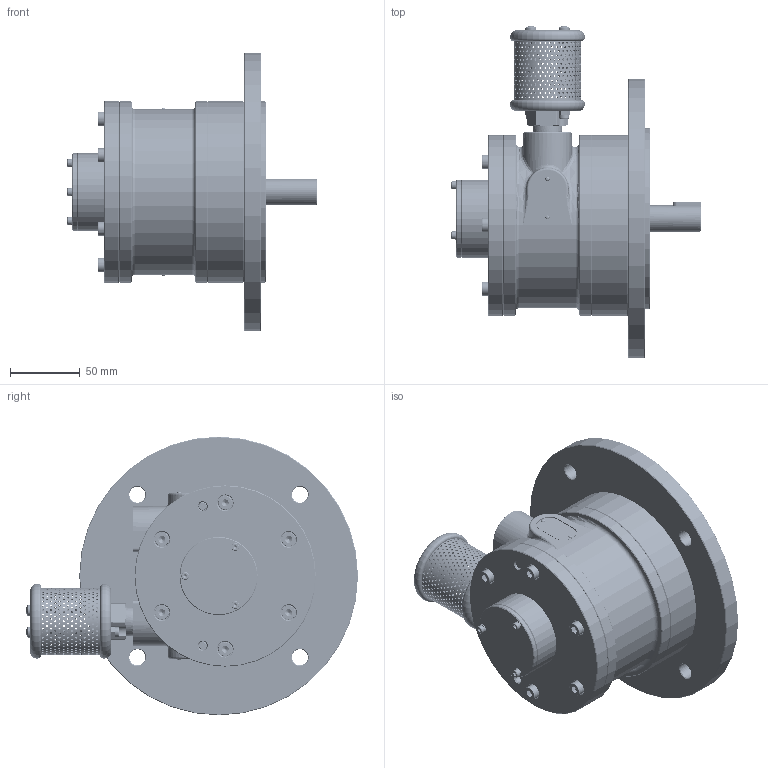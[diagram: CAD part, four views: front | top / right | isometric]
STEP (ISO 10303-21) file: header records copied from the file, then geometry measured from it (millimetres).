
FILE_DESCRIPTION (( 'STEP AP214' ), '1' );
FILE_NAME ('6VMD-IEC (Alu. End Plates)_23-04-26.STEP', '2026-04-24T05:13:56', ( '' ), ( '' ), 'SwSTEP 2.0', 'SolidWorks 2017', '' );
FILE_SCHEMA (( 'AUTOMOTIVE_DESIGN' ));
Length unit declared in the file: millimetre
Products named in the file (2): 6VMD-IEC (Alu. End Plates)_23-04-26
Bounding box: 178.95 x 238.2 x 200 mm (x, y, z)
Volume: 846069.5 mm3; surface area: 316049.2 mm2
Topology: 68 solids, 68 shells, 4842 faces, 12694 edges, 7951 vertices
Faces by surface type: cylinder 2565, cone 1362, plane 690, torus 179, bspline 28, sphere 18
Entity records: 247085 total; most frequent: CARTESIAN_POINT 76609, ORIENTED_EDGE 25220, DIRECTION 22439, EDGE_CURVE 12610, AXIS2_PLACEMENT_3D 8816, VERTEX_POINT 7947, EDGE_LOOP 6513, ADVANCED_FACE 4842
